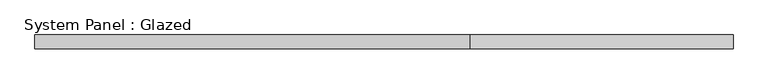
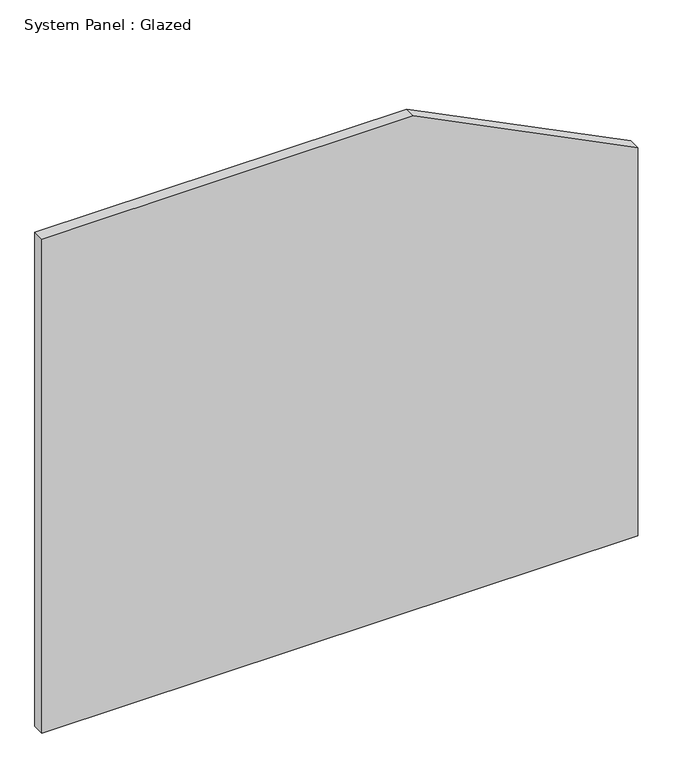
"""IFC4 building model written with IfcOpenShell, lengths in millimetres: plate geometry, System Panel : Glazed."""

from ifc_helpers import new_model, si_unit, frame, origin, place, context, project, spatial, polyline, outline, extrude, source, transform, mapped, element, save


def system_panel_glazed_9d93dfa0(model_context):
    return source(origin(), model_context, "Body", "SweptSolid", [
        extrude(outline(polyline([(0.0, -641.35), (0.0, 641.35), (882.5960429, 641.35), (1123.95, 158.6420857), (1123.95, -641.35), (0.0, -641.35)])), frame((0.0, 19.05, 0.0), z_axis=(0.0, 1.0, 0.0), x_axis=(0.0, 0.0, 1.0)), (0.0, 0.0, 1.0), 25.4),
    ])


if __name__ == "__main__":
    model = new_model("IFC4")
    model_context = context("Model", 3, world=origin())
    ifc_project = project(units=[si_unit("LENGTHUNIT", "METRE", prefix="MILLI")], contexts=[model_context])
    site = spatial("IfcSite", under=ifc_project)
    building = spatial("IfcBuilding", under=site)
    placement = place(None, origin())
    system_panel_glazed_shape = system_panel_glazed_9d93dfa0(model_context)
    element("IfcPlate", 1, ObjectType="System Panel : Glazed", at=placement, inside=building, context=model_context, shape_type="MappedRepresentation", body=[
        mapped(system_panel_glazed_shape, transform((0.0, 0.0, 0.0), x_axis=(1.0, 0.0, 0.0), y_axis=(0.0, 1.0, 0.0), z_axis=(0.0, 0.0, 1.0))),
    ])
    save(model, "model.ifc")
